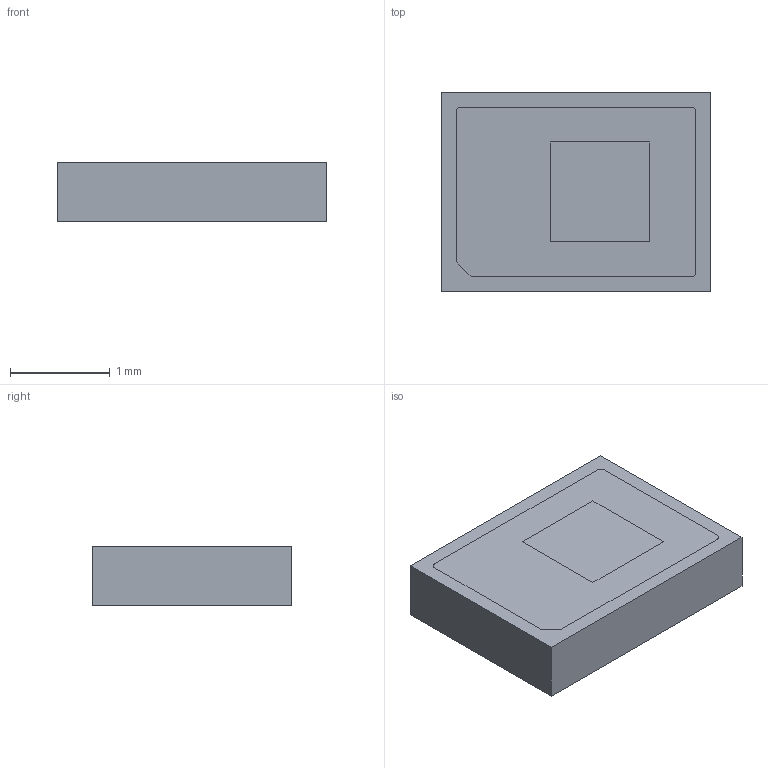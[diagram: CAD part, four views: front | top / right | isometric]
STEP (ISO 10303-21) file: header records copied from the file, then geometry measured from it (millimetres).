
FILE_DESCRIPTION (( 'STEP AP214' ), '1' );
FILE_NAME ('LRK.STEP', '2024-01-25T19:59:02', ( '' ), ( '' ), 'SwSTEP 2.0', 'SolidWorks 2022', '' );
FILE_SCHEMA (( 'AUTOMOTIVE_DESIGN' ));
Length unit declared in the file: millimetre
Products named in the file (1): LRK
Bounding box: 2.7 x 2 x 0.6 mm (x, y, z)
Volume: 3.2 mm3; surface area: 16.4 mm2
Topology: 1 solids, 1 shells, 10 faces, 32 edges, 28 vertices
Faces by surface type: plane 10
Entity records: 457 total; most frequent: CARTESIAN_POINT 71, ORIENTED_EDGE 64, DIRECTION 57, EDGE_CURVE 32, VECTOR 29, LINE 29, VERTEX_POINT 28, EDGE_LOOP 14
